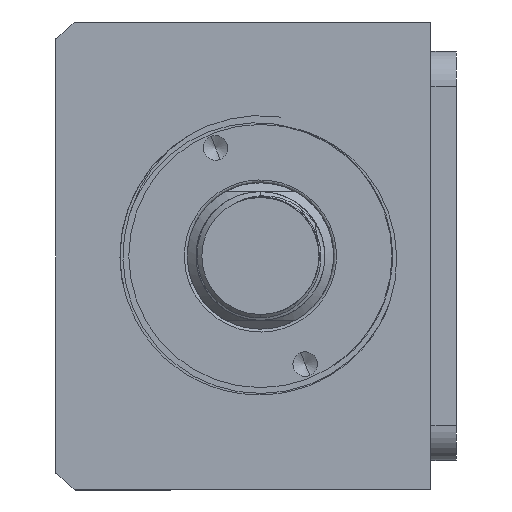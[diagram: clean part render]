
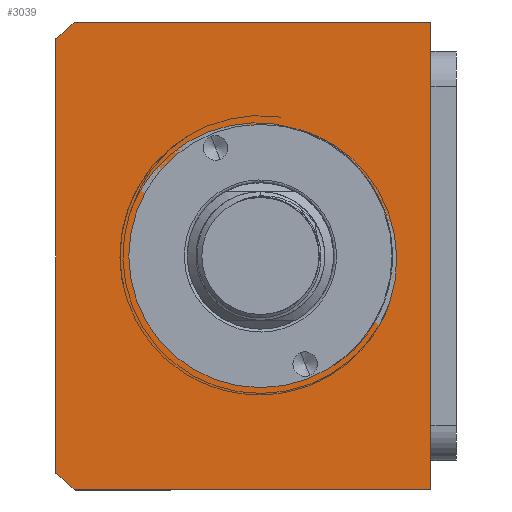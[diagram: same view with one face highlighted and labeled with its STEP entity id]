
A CAD part, front view. The second image highlights one B-rep face of the part: STEP entity #3039.
In plain terms, the highlighted planar face has unit normal (0, -1, 0) as drawn and (0, 0, 1) by its records, which use the part's own axes.
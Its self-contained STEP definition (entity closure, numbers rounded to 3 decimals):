
#34 = ORIENTED_EDGE ( 'NONE', *, *, #6080, .T. ) ;
#205 = EDGE_CURVE ( 'NONE', #2691, #2634, #11013, .T. ) ;
#246 = CARTESIAN_POINT ( 'NONE',  ( 0., -40.507, 140. ) ) ;
#362 = EDGE_CURVE ( 'NONE', #5432, #11118, #12828, .T. ) ;
#514 = CARTESIAN_POINT ( 'NONE',  ( 0., -40.507, 140. ) ) ;
#606 = CIRCLE ( 'NONE', #8868, 22.5 ) ;
#658 = CARTESIAN_POINT ( 'NONE',  ( 40., -11.507, 140. ) ) ;
#818 = CARTESIAN_POINT ( 'NONE',  ( 0., -40.507, 140. ) ) ;
#832 = DIRECTION ( 'NONE',  ( 0., -1., 0. ) ) ;
#1010 = CIRCLE ( 'NONE', #11886, 22.5 ) ;
#1086 = CARTESIAN_POINT ( 'NONE',  ( 0., 0., 140. ) ) ;
#1312 = DIRECTION ( 'NONE',  ( 1., 0., 0. ) ) ;
#1573 = DIRECTION ( 'NONE',  ( 1., 0., 0. ) ) ;
#1578 = AXIS2_PLACEMENT_3D ( 'NONE', #514, #7916, #1573 ) ;
#1870 = VERTEX_POINT ( 'NONE', #8274 ) ;
#1880 = DIRECTION ( 'NONE',  ( 1., 0., 0. ) ) ;
#2051 = VERTEX_POINT ( 'NONE', #4287 ) ;
#2089 = CIRCLE ( 'NONE', #1578, 51. ) ;
#2433 = CARTESIAN_POINT ( 'NONE',  ( 0., -40.507, 140. ) ) ;
#2445 = CIRCLE ( 'NONE', #5200, 51. ) ;
#2634 = VERTEX_POINT ( 'NONE', #9230 ) ;
#2691 = VERTEX_POINT ( 'NONE', #4028 ) ;
#2959 = CARTESIAN_POINT ( 'NONE',  ( -40., -11.507, 140. ) ) ;
#3039 = ADVANCED_FACE ( 'NONE', ( #7290, #12616 ), #3209, .T. ) ;
#3209 = PLANE ( 'NONE',  #6248 ) ;
#3293 = ORIENTED_EDGE ( 'NONE', *, *, #12539, .T. ) ;
#3313 = EDGE_LOOP ( 'NONE', ( #12772, #3917 ) ) ;
#3491 = DIRECTION ( 'NONE',  ( 1., 0., 0. ) ) ;
#3917 = ORIENTED_EDGE ( 'NONE', *, *, #7043, .F. ) ;
#3919 = CARTESIAN_POINT ( 'NONE',  ( -37.094, -75.507, 140. ) ) ;
#4028 = CARTESIAN_POINT ( 'NONE',  ( 40., -72.145, 140. ) ) ;
#4277 = DIRECTION ( 'NONE',  ( 1., 0., 0. ) ) ;
#4287 = CARTESIAN_POINT ( 'NONE',  ( -22.5, -40.507, 140. ) ) ;
#4862 = DIRECTION ( 'NONE',  ( 0., 1., 0. ) ) ;
#4865 = VERTEX_POINT ( 'NONE', #12830 ) ;
#4992 = EDGE_CURVE ( 'NONE', #11118, #2691, #2445, .T. ) ;
#4996 = LINE ( 'NONE', #2959, #7480 ) ;
#5016 = VECTOR ( 'NONE', #12498, 1000. ) ;
#5068 = CARTESIAN_POINT ( 'NONE',  ( -40., -75.507, 140. ) ) ;
#5200 = AXIS2_PLACEMENT_3D ( 'NONE', #2433, #9848, #3491 ) ;
#5346 = VECTOR ( 'NONE', #4862, 1000. ) ;
#5432 = VERTEX_POINT ( 'NONE', #3919 ) ;
#6080 = EDGE_CURVE ( 'NONE', #1870, #5432, #2089, .T. ) ;
#6248 = AXIS2_PLACEMENT_3D ( 'NONE', #1086, #10640, #4277 ) ;
#7043 = EDGE_CURVE ( 'NONE', #2051, #4865, #606, .T. ) ;
#7290 = FACE_BOUND ( 'NONE', #3313, .T. ) ;
#7480 = VECTOR ( 'NONE', #832, 1000. ) ;
#7661 = DIRECTION ( 'NONE',  ( 0., 0., 1. ) ) ;
#7916 = DIRECTION ( 'NONE',  ( 0., 0., 1. ) ) ;
#8091 = EDGE_LOOP ( 'NONE', ( #13406, #34, #10577, #12530, #11812, #3293 ) ) ;
#8223 = DIRECTION ( 'NONE',  ( 0., 0., 1. ) ) ;
#8274 = CARTESIAN_POINT ( 'NONE',  ( -40., -72.145, 140. ) ) ;
#8323 = LINE ( 'NONE', #10579, #9820 ) ;
#8868 = AXIS2_PLACEMENT_3D ( 'NONE', #246, #7661, #1312 ) ;
#9230 = CARTESIAN_POINT ( 'NONE',  ( 40., -11.507, 140. ) ) ;
#9392 = CARTESIAN_POINT ( 'NONE',  ( 37.094, -75.507, 140. ) ) ;
#9820 = VECTOR ( 'NONE', #11655, 1000. ) ;
#9848 = DIRECTION ( 'NONE',  ( 0., 0., 1. ) ) ;
#10164 = CARTESIAN_POINT ( 'NONE',  ( -40., -11.507, 140. ) ) ;
#10577 = ORIENTED_EDGE ( 'NONE', *, *, #362, .T. ) ;
#10579 = CARTESIAN_POINT ( 'NONE',  ( -40., -11.507, 140. ) ) ;
#10593 = VERTEX_POINT ( 'NONE', #10164 ) ;
#10640 = DIRECTION ( 'NONE',  ( 0., 0., 1. ) ) ;
#11013 = LINE ( 'NONE', #658, #5346 ) ;
#11118 = VERTEX_POINT ( 'NONE', #9392 ) ;
#11655 = DIRECTION ( 'NONE',  ( -1., 0., 0. ) ) ;
#11812 = ORIENTED_EDGE ( 'NONE', *, *, #205, .T. ) ;
#11886 = AXIS2_PLACEMENT_3D ( 'NONE', #818, #8223, #1880 ) ;
#12498 = DIRECTION ( 'NONE',  ( 1., 0., 0. ) ) ;
#12530 = ORIENTED_EDGE ( 'NONE', *, *, #4992, .T. ) ;
#12539 = EDGE_CURVE ( 'NONE', #2634, #10593, #8323, .T. ) ;
#12616 = FACE_OUTER_BOUND ( 'NONE', #8091, .T. ) ;
#12772 = ORIENTED_EDGE ( 'NONE', *, *, #13727, .F. ) ;
#12828 = LINE ( 'NONE', #5068, #5016 ) ;
#12830 = CARTESIAN_POINT ( 'NONE',  ( 22.5, -40.507, 140. ) ) ;
#13004 = EDGE_CURVE ( 'NONE', #10593, #1870, #4996, .T. ) ;
#13406 = ORIENTED_EDGE ( 'NONE', *, *, #13004, .T. ) ;
#13727 = EDGE_CURVE ( 'NONE', #4865, #2051, #1010, .T. ) ;
